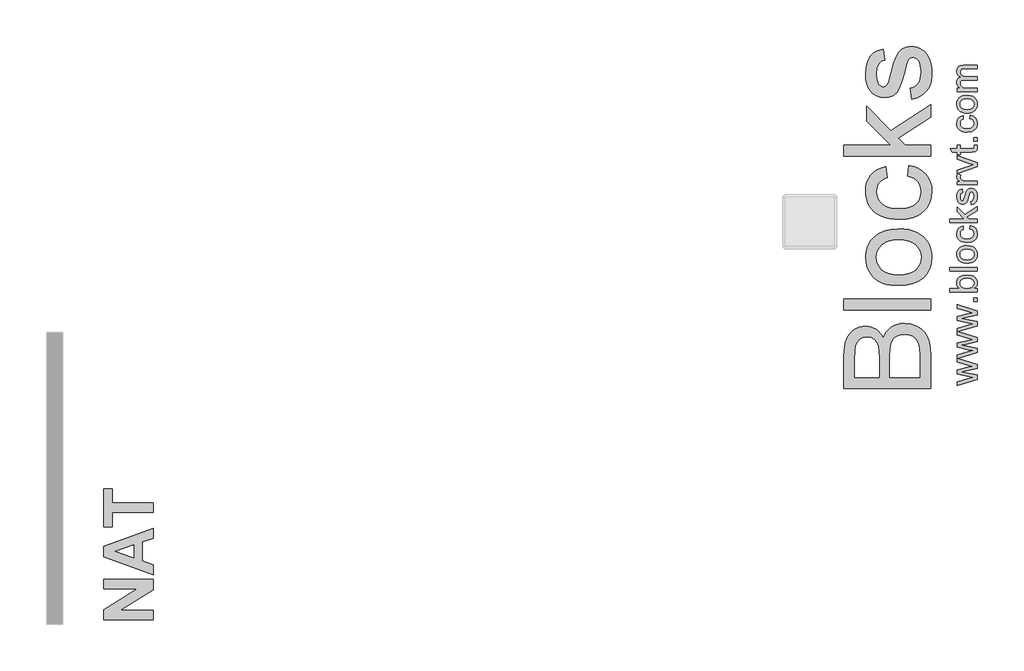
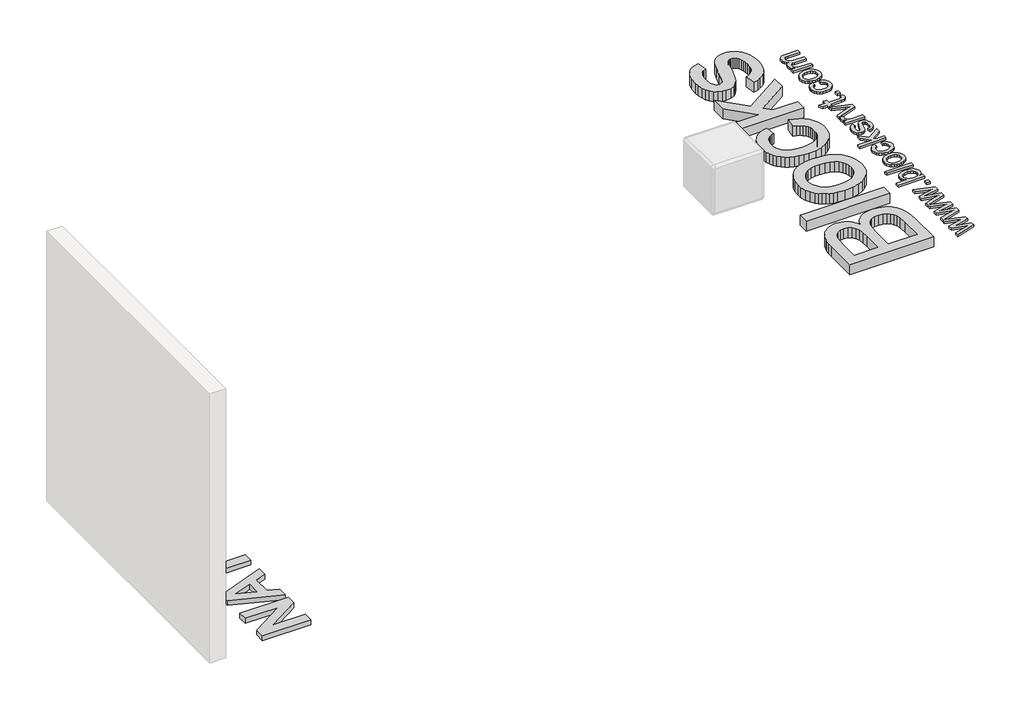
# One storey, part 9 of 9: 3 proxies.
"""IFC4 building model written with IfcOpenShell, lengths in millimetres."""

from ifc_helpers import new_model, si_unit, origin, origin_with_axes, place, context, project, spatial, polyline, outline, extrude, element, save

model = new_model("IFC4")

# Units and contexts
model_context = context("Model", 3, world=origin())
ifc_project = project(units=[si_unit("LENGTHUNIT", "METRE", prefix="MILLI")], contexts=[model_context])

# Site, building, storey
site = spatial("IfcSite", under=ifc_project)
building = spatial("IfcBuilding", under=site)
storey = spatial("IfcBuildingStorey", under=building, Name="PORTOBELLO - SHOWROOM", Elevation=0.0)

# Proxies
placement = place(None, origin())
element("IfcBuildingElementProxy", 1, Name="25mm Arial", ObjectType="25mm Arial", at=placement, inside=storey, context=model_context, shape_type="SweptSolid", body=[
    extrude(outline(polyline([(-5021.0330724, 23535.1740089), (-5199.0530549, 23480.7855901), (-5021.0330724, 23426.2196247), (-5021.0330724, 23388.3277792), (-5129.190379, 23364.1701948), (-5162.9128952, 23357.1804369), (-5021.0330724, 23326.0944083), (-5021.0330724, 23287.9573082), (-5199.0530549, 23233.5688893), (-5021.0330724, 23179.0029239), (-5021.0330724, 23141.1110784), (-5129.190379, 23116.9534941), (-5162.9128952, 23109.9637362), (-5021.0330724, 23078.8777076), (-5021.0330724, 23040.7406074), (-5205.4645793, 22984.3933485), (-5205.4645793, 23016.9509051), (-5097.8590958, 23048.8340113), (-5059.4154273, 23058.3376295), (-5096.4488814, 23066.1244651), (-5205.4645793, 23091.4470091), (-5205.4645793, 23128.7257179), (-5096.7554498, 23154.0482619), (-5063.2168745, 23160.9767062), (-5098.5948597, 23170.90952), (-5205.4645793, 23202.7926263), (-5205.4645793, 23231.6100492), (-5205.4645793, 23235.5341239), (-5205.4645793, 23264.1676058), (-5097.8590958, 23296.0507121), (-5059.4154273, 23305.5543303), (-5096.4488814, 23313.3411658), (-5205.4645793, 23338.6637098), (-5205.4645793, 23375.9424187), (-5096.7554498, 23401.2649627), (-5063.2168745, 23408.1934069), (-5098.5948597, 23418.1262208), (-5205.4645793, 23450.009327), (-5205.4645793, 23478.82675), (-5205.4645793, 23482.7508246), (-5205.4645793, 23511.3843066), (-5097.8590958, 23543.2674128), (-5059.4154273, 23552.771031), (-5096.4488814, 23560.5578666), (-5205.4645793, 23585.8804106), (-5205.4645793, 23623.1591194), (-5096.7554498, 23648.4816634), (-5063.2168745, 23655.4101077), (-5098.5948597, 23665.3429216), (-5205.4645793, 23697.2260278), (-5205.4645793, 23729.9675254), (-5021.0330724, 23673.4363255), (-5021.0330724, 23635.54448), (-5129.190379, 23611.3868956), (-5162.9128952, 23604.3971377), (-5021.0330724, 23573.3111091), (-5021.0330724, 23535.1740089)])), origin_with_axes(), (0.0, 0.0, 1.0), 20.0),
    extrude(outline(polyline([(-5021.0330724, 23759.398085), (-5052.4256693, 23759.398085), (-5052.4256693, 23790.7906819), (-5021.0330724, 23790.7906819), (-5021.0330724, 23759.398085)])), origin_with_axes(), (0.0, 0.0, 1.0), 20.0),
    extrude(outline(polyline([(-5021.0330724, 23881.0443981), (-5021.0330724, 23849.6518011), (-5272.1738478, 23849.6518011), (-5272.1738478, 23881.0443981), (-5179.0383894, 23881.0443981), (-5192.3166301, 23891.3680866), (-5201.8010878, 23903.0253473), (-5207.4917624, 23916.0161802), (-5209.388654, 23930.3405854), (-5207.6795355, 23946.5120648), (-5202.5521802, 23961.794496), (-5194.3284848, 23975.3141593), (-5183.330346, 23986.197335), (-5153.4399339, 24001.1885263), (-5116.0079408, 24006.6147858), (-5074.1000502, 24000.9969211), (-5057.1698142, 23993.9745903), (-5042.9220511, 23984.1433272), (-5031.6288403, 23972.3423626), (-5023.5622611, 23959.4109272), (-5018.7223136, 23945.3490212), (-5017.1089978, 23930.1566444), (-5019.1898303, 23915.3608904), (-5025.432328, 23902.243598), (-5035.8364906, 23890.8047672), (-5050.4023184, 23881.0443981), (-5021.0330724, 23881.0443981)]), holes=[polyline([(-5114.5364129, 23881.0443981), (-5088.3554775, 23883.1903764), (-5070.6358281, 23889.6283113), (-5054.0351531, 23906.0757022), (-5048.5015947, 23927.4588431), (-5052.5789535, 23945.5770314), (-5064.8110299, 23961.058732), (-5085.1211817, 23971.6813246), (-5113.4327669, 23975.2221888), (-5142.1582193, 23971.8269446), (-5162.2384449, 23961.6412118), (-5174.056654, 23946.6423563), (-5177.996057, 23928.8077438), (-5173.9186983, 23910.6895555), (-5161.6866219, 23895.2078549), (-5141.7443521, 23884.5852623), (-5114.5364129, 23881.0443981)])]), origin_with_axes(), (0.0, 0.0, 1.0), 20.0),
    extrude(outline(polyline([(-5021.0330724, 24041.9314573), (-5272.1738478, 24041.9314573), (-5272.1738478, 24073.3240542), (-5021.0330724, 24073.3240542), (-5021.0330724, 24041.9314573)])), origin_with_axes(), (0.0, 0.0, 1.0), 20.0),
    extrude(outline(polyline([(-5113.2488259, 24112.5648004), (-5137.1343308, 24114.2624225), (-5157.7165621, 24119.3552889), (-5174.9955195, 24127.8433995), (-5188.9712032, 24139.7267543), (-5204.2842913, 24164.8960142), (-5209.388654, 24195.0316809), (-5207.8347357, 24212.3508755), (-5203.1729811, 24228.010769), (-5195.40339, 24242.0113614), (-5184.5259624, 24254.3526527), (-5170.9085805, 24264.4253383), (-5154.919126, 24271.6201138), (-5136.5575992, 24275.9369791), (-5115.8239998, 24277.3759342), (-5084.1095062, 24274.8314171), (-5059.9672502, 24267.1978657), (-5041.887383, 24254.697542), (-5028.3600555, 24237.5527082), (-5019.9217622, 24217.1889069), (-5017.1089978, 24195.0316809), (-5018.6571679, 24177.4595675), (-5023.3016781, 24161.6540541), (-5031.0425284, 24147.6151407), (-5041.8797188, 24135.3428272), (-5055.6293084, 24125.3774405), (-5072.1073561, 24118.2593071), (-5091.3138619, 24113.988427), (-5113.2488259, 24112.5648004)]), holes=[polyline([(-5113.3101395, 24143.9573973), (-5084.8989196, 24147.590232), (-5064.6577457, 24158.4887361), (-5052.5406325, 24174.8901417), (-5048.5015947, 24195.0316809), (-5052.5636251, 24215.0812497), (-5064.7497162, 24231.4519985), (-5085.2591374, 24242.3505026), (-5114.2911582, 24245.9833373), (-5141.8746436, 24242.32751), (-5161.8399061, 24231.360028), (-5173.9570193, 24214.9662866), (-5177.996057, 24195.0316809), (-5173.9723477, 24174.8901417), (-5161.9012197, 24158.4887361), (-5141.7060311, 24147.590232), (-5113.3101395, 24143.9573973)])]), origin_with_axes(), (0.0, 0.0, 1.0), 20.0),
    extrude(outline(polyline([(-5087.7423409, 24430.4148442), (-5083.8182663, 24461.8074411), (-5055.8975557, 24453.0549153), (-5034.7979904, 24436.6075244), (-5021.531246, 24414.0134386), (-5017.1089978, 24386.8208278), (-5018.6514197, 24369.2142254), (-5023.2786854, 24353.4278725), (-5030.990795, 24339.461769), (-5041.7877483, 24327.315915), (-5055.466444, 24317.4846519), (-5071.8237804, 24310.4623211), (-5112.5743756, 24304.8444565), (-5140.5104146, 24307.2433537), (-5164.7216484, 24314.4400452), (-5184.2730436, 24326.5494942), (-5198.2295668, 24343.6866638), (-5206.5988822, 24364.1884209), (-5209.388654, 24386.3916321), (-5205.5565498, 24412.9174568), (-5194.0602375, 24434.124321), (-5175.5128536, 24449.3377743), (-5150.5275347, 24457.8833665), (-5146.6034601, 24426.4907696), (-5160.2994002, 24420.7962629), (-5170.117251, 24411.9287739), (-5176.0263555, 24400.3788121), (-5177.996057, 24386.6368868), (-5174.1179677, 24366.3497276), (-5162.4836996, 24350.2472261), (-5142.4647877, 24339.7395966), (-5113.4327669, 24336.2370534), (-5084.0098715, 24339.6629545), (-5063.9219817, 24349.9406578), (-5052.3566915, 24365.7519193), (-5048.5015947, 24385.7784954), (-5050.9081561, 24402.0342811), (-5058.1278403, 24415.3623392), (-5070.3445882, 24425.0575626), (-5087.7423409, 24430.4148442)])), origin_with_axes(), (0.0, 0.0, 1.0), 20.0),
    extrude(outline(polyline([(-5021.0330724, 24489.2759634), (-5272.1738478, 24489.2759634), (-5272.1738478, 24520.6685603), (-5137.2224692, 24520.6685603), (-5205.4645793, 24591.0566488), (-5205.4645793, 24634.4667242), (-5136.3640779, 24563.1589308), (-5021.0330724, 24638.3907988), (-5021.0330724, 24601.7252266), (-5114.5364129, 24540.6568154), (-5095.0999808, 24520.6685603), (-5021.0330724, 24520.6685603), (-5021.0330724, 24489.2759634)])), origin_with_axes(), (0.0, 0.0, 1.0), 20.0),
    extrude(outline(polyline([(-5075.970117, 24654.0870973), (-5079.8941917, 24685.4796942), (-5066.4664988, 24690.4307727), (-5056.5949986, 24700.011033), (-5050.5249457, 24714.2817887), (-5048.5015947, 24733.3043536), (-5050.3563331, 24752.0969921), (-5055.9205483, 24765.3100871), (-5063.9832954, 24773.1275795), (-5073.3336294, 24775.7334103), (-5081.3350628, 24773.1122511), (-5087.4357726, 24765.2487735), (-5096.3875678, 24732.9364716), (-5111.7466411, 24685.6636352), (-5119.4644988, 24673.6998061), (-5129.6808883, 24665.0315866), (-5141.7443521, 24659.7662756), (-5155.0034323, 24658.0111719), (-5178.3945959, 24663.6520291), (-5196.2675295, 24679.0417593), (-5205.5565498, 24698.9993575), (-5209.388654, 24726.0080273), (-5207.8481481, 24746.4408065), (-5203.2266305, 24764.2064412), (-5195.9762895, 24778.4925253), (-5186.5493134, 24788.4866528), (-5174.2482592, 24795.1085287), (-5158.375684, 24799.277858), (-5154.4516093, 24767.8852611), (-5164.3307738, 24763.9228654), (-5171.7727199, 24756.0823804), (-5176.4402228, 24744.287164), (-5177.996057, 24728.460574), (-5176.5092006, 24710.4343562), (-5172.0486314, 24698.4168777), (-5165.6106965, 24691.657046), (-5158.191743, 24689.4037688), (-5149.0560067, 24693.1439024), (-5142.1275625, 24704.8548126), (-5135.4443729, 24731.8941392), (-5120.6677795, 24777.9713591), (-5113.6013795, 24790.1421218), (-5103.9291487, 24799.3698285), (-5091.6204303, 24805.1869626), (-5076.6445674, 24807.1260073), (-5061.1628667, 24804.8497374), (-5046.6008711, 24798.0209279), (-5034.1005475, 24786.9001617), (-5024.8038629, 24771.7480221), (-5019.0327141, 24753.4458928), (-5017.1089978, 24732.8751579), (-5020.8184746, 24701.2219779), (-5031.9469049, 24678.1220543), (-5050.3716615, 24662.7016673), (-5075.970117, 24654.0870973)])), origin_with_axes(), (0.0, 0.0, 1.0), 20.0),
    extrude(outline(polyline([(-5021.0330724, 25005.53703), (-5205.4645793, 24940.5445442), (-5205.4645793, 24973.7152374), (-5094.9773535, 25013.0786109), (-5057.8212719, 25024.9121484), (-5092.8926888, 25036.5004312), (-5205.4645793, 25076.0477457), (-5205.4645793, 25109.2797526), (-5021.0330724, 25045.2069718), (-5021.0330724, 25005.53703)])), origin_with_axes(), (0.0, 0.0, 1.0), 20.0),
    extrude(outline(polyline([(-5021.0330724, 24842.4426788), (-5205.4645793, 24842.4426788), (-5205.4645793, 24869.9112011), (-5178.179998, 24869.9112011), (-5193.9989238, 24880.0586128), (-5203.318601, 24889.4089468), (-5209.388654, 24909.0293199), (-5206.9667642, 24924.6643047), (-5199.7010948, 24940.5445442), (-5171.5581221, 24930.0599073), (-5177.996057, 24907.9869876), (-5176.447887, 24898.6136609), (-5171.8033768, 24890.2366813), (-5154.6355503, 24878.92431), (-5117.9699782, 24873.8352757), (-5021.0330724, 24873.8352757), (-5021.0330724, 24842.4426788)])), origin_with_axes(), (0.0, 0.0, 1.0), 20.0),
    extrude(outline(polyline([(-5047.2140077, 25203.4575434), (-5020.1133674, 25207.381618), (-5017.1089978, 25183.898484), (-5018.4119132, 25168.8306506), (-5022.3206594, 25157.5949213), (-5035.9936069, 25144.4737968), (-5071.6168468, 25140.6723496), (-5174.0719824, 25140.6723496), (-5174.0719824, 25117.1279019), (-5205.4645793, 25117.1279019), (-5205.4645793, 25140.6723496), (-5250.2848691, 25140.6723496), (-5268.7402825, 25172.0649465), (-5205.4645793, 25172.0649465), (-5205.4645793, 25203.4575434), (-5174.0719824, 25203.4575434), (-5174.0719824, 25172.0649465), (-5072.5365518, 25172.0649465), (-5056.349744, 25173.7204155), (-5050.6169162, 25179.0853612), (-5048.5015947, 25189.7845959), (-5047.2140077, 25203.4575434)])), origin_with_axes(), (0.0, 0.0, 1.0), 20.0),
    extrude(outline(polyline([(-5021.0330724, 25242.6982895), (-5052.4256693, 25242.6982895), (-5052.4256693, 25274.0908865), (-5021.0330724, 25274.0908865), (-5021.0330724, 25242.6982895)])), origin_with_axes(), (0.0, 0.0, 1.0), 20.0),
    extrude(outline(polyline([(-5087.7423409, 25450.6742442), (-5083.8182663, 25482.0668411), (-5055.8975557, 25473.3143153), (-5034.7979904, 25456.8669244), (-5021.531246, 25434.2728385), (-5017.1089978, 25407.0802277), (-5018.6514197, 25389.4736254), (-5023.2786854, 25373.6872725), (-5030.990795, 25359.721169), (-5041.7877483, 25347.575315), (-5055.466444, 25337.7440519), (-5071.8237804, 25330.7217211), (-5112.5743756, 25325.1038565), (-5140.5104146, 25327.5027536), (-5164.7216484, 25334.6994452), (-5184.2730436, 25346.8088942), (-5198.2295668, 25363.9460638), (-5206.5988822, 25384.4478208), (-5209.388654, 25406.6510321), (-5205.5565498, 25433.1768568), (-5194.0602375, 25454.3837209), (-5175.5128536, 25469.5971743), (-5150.5275347, 25478.1427665), (-5146.6034601, 25446.7501695), (-5160.2994002, 25441.0556628), (-5170.117251, 25432.1881739), (-5176.0263555, 25420.6382121), (-5177.996057, 25406.8962867), (-5174.1179677, 25386.6091275), (-5162.4836996, 25370.506626), (-5142.4647877, 25359.9989965), (-5113.4327669, 25356.4964534), (-5084.0098715, 25359.9223545), (-5063.9219817, 25370.2000577), (-5052.3566915, 25386.0113193), (-5048.5015947, 25406.0378954), (-5050.9081561, 25422.2936811), (-5058.1278403, 25435.6217392), (-5070.3445882, 25445.3169626), (-5087.7423409, 25450.6742442)])), origin_with_axes(), (0.0, 0.0, 1.0), 20.0),
    extrude(outline(polyline([(-5113.2488259, 25501.6872142), (-5137.1343308, 25503.3848363), (-5157.7165621, 25508.4777026), (-5174.9955195, 25516.9658133), (-5188.9712032, 25528.8491681), (-5204.2842913, 25554.018428), (-5209.388654, 25584.1540947), (-5207.8347357, 25601.4732893), (-5203.1729811, 25617.1331828), (-5195.40339, 25631.1337752), (-5184.5259624, 25643.4750665), (-5170.9085805, 25653.5477521), (-5154.919126, 25660.7425276), (-5136.5575992, 25665.0593929), (-5115.8239998, 25666.498348), (-5084.1095062, 25663.9538309), (-5059.9672502, 25656.3202795), (-5041.887383, 25643.8199558), (-5028.3600555, 25626.675122), (-5019.9217622, 25606.3113207), (-5017.1089978, 25584.1540947), (-5018.6571679, 25566.5819813), (-5023.3016781, 25550.7764679), (-5031.0425284, 25536.7375545), (-5041.8797188, 25524.465241), (-5055.6293084, 25514.4998543), (-5072.1073561, 25507.3817209), (-5091.3138619, 25503.1108408), (-5113.2488259, 25501.6872142)]), holes=[polyline([(-5113.3101395, 25533.0798111), (-5084.8989196, 25536.7126458), (-5064.6577457, 25547.6111499), (-5052.5406325, 25564.0125555), (-5048.5015947, 25584.1540947), (-5052.5636251, 25604.2036635), (-5064.7497162, 25620.5744123), (-5085.2591374, 25631.4729164), (-5114.2911582, 25635.1057511), (-5141.8746436, 25631.4499237), (-5161.8399061, 25620.4824418), (-5173.9570193, 25604.0887003), (-5177.996057, 25584.1540947), (-5173.9723477, 25564.0125555), (-5161.9012197, 25547.6111499), (-5141.7060311, 25536.7126458), (-5113.3101395, 25533.0798111)])]), origin_with_axes(), (0.0, 0.0, 1.0), 20.0),
    extrude(outline(polyline([(-5021.0330724, 25701.8150195), (-5205.4645793, 25701.8150195), (-5205.4645793, 25733.2076164), (-5175.1143147, 25733.2076164), (-5189.0555095, 25742.649921), (-5199.9770062, 25754.7900268), (-5207.035742, 25769.2140667), (-5209.388654, 25785.5081734), (-5206.9897568, 25802.9672398), (-5199.7930652, 25816.962084), (-5188.2737603, 25827.416064), (-5172.9070228, 25834.2525378), (-5188.8677364, 25845.6952007), (-5200.2682462, 25858.7473473), (-5207.108552, 25873.4089777), (-5209.388654, 25889.6800917), (-5205.5948709, 25913.2781889), (-5194.2135217, 25930.729591), (-5174.9380379, 25941.513132), (-5147.4618514, 25945.1076457), (-5021.0330724, 25945.1076457), (-5021.0330724, 25913.7150487), (-5133.9728449, 25913.7150487), (-5160.1844371, 25910.8026496), (-5173.0909638, 25900.2566991), (-5177.996057, 25882.3224518), (-5174.8537317, 25865.3155738), (-5165.4267555, 25851.4510211), (-5149.0713352, 25842.2309786), (-5125.1436771, 25839.1576311), (-5021.0330724, 25839.1576311), (-5021.0330724, 25807.7650341), (-5137.4677239, 25807.7650341), (-5155.2180302, 25805.9486168), (-5167.8793022, 25800.4993647), (-5175.4668683, 25790.9114402), (-5177.996057, 25776.6790055), (-5176.3099312, 25764.584885), (-5171.2515538, 25753.4411262), (-5162.9435521, 25744.2440763), (-5151.5085534, 25737.9900824), (-5114.0459035, 25733.2076164), (-5021.0330724, 25733.2076164), (-5021.0330724, 25701.8150195)])), origin_with_axes(), (0.0, 0.0, 1.0), 20.0),
])
element("IfcBuildingElementProxy", 2, Name="450mm Arial", ObjectType="450mm Arial", at=placement, inside=storey, context=model_context, shape_type="SweptSolid", body=[
    extrude(outline(polyline([(-12630.352049, 20819.1171638), (-13089.468779, 20819.1171638), (-13089.468779, 20910.7810943), (-12780.4303848, 21103.3322824), (-13089.468779, 21103.3322824), (-13089.468779, 21190.7830881), (-12630.352049, 21190.7830881), (-12630.352049, 21096.2724517), (-12934.8357137, 20906.5679695), (-12630.352049, 20906.5679695), (-12630.352049, 20819.1171638)])), origin_with_axes(), (0.0, 0.0, 1.0), 50.0),
    extrude(outline(polyline([(-12630.352049, 21664.4749524), (-12630.352049, 21572.5832854), (-12732.377989, 21536.6009227), (-12732.377989, 21363.2934666), (-12630.352049, 21327.7665767), (-12630.352049, 21234.508491), (-13089.468779, 21401.8947988), (-13089.468779, 21495.2667528), (-12630.352049, 21664.4749524)]), holes=[polyline([(-12812.5412276, 21508.5893365), (-12980.1552718, 21449.4917217), (-12812.5412276, 21391.1911845), (-12812.5412276, 21508.5893365)])]), origin_with_axes(), (0.0, 0.0, 1.0), 50.0),
    extrude(outline(polyline([(-12630.352049, 21810.2262952), (-13009.3055404, 21810.2262952), (-13009.3055404, 21679.0500867), (-13089.468779, 21679.0500867), (-13089.468779, 22028.8533095), (-13009.3055404, 22028.8533095), (-13009.3055404, 21897.6771009), (-12630.352049, 21897.6771009), (-12630.352049, 21810.2262952)])), origin_with_axes(), (0.0, 0.0, 1.0), 50.0),
])
element("IfcBuildingElementProxy", 3, Name="80mm Arial", ObjectType="80mm Arial", at=placement, inside=storey, context=model_context, shape_type="SweptSolid", body=[
    extrude(outline(polyline([(-5450.4764951, 22957.1961247), (-6249.8651934, 22957.1961247), (-6249.8651934, 23262.2362945), (-6248.3953702, 23306.483464), (-6243.9859003, 23346.1320994), (-6236.636784, 23381.1822004), (-6226.348021, 23411.6337673), (-6213.0098322, 23438.2613541), (-6196.5124382, 23461.839515), (-6176.855839, 23482.3682501), (-6154.0400345, 23499.8475592), (-6129.3518826, 23513.8078309), (-6104.0782409, 23523.7794535), (-6078.2191094, 23529.7624271), (-6051.7744882, 23531.7567516), (-6027.3485868, 23530.0795674), (-6003.64235, 23525.0480147), (-5980.6557777, 23516.6620935), (-5958.38887, 23504.9218039), (-5937.5368958, 23489.7905527), (-5918.7951243, 23471.2317467), (-5902.1635555, 23449.2453861), (-5887.6421895, 23423.8314708), (-5874.78581, 23453.9902928), (-5858.0749561, 23480.4532106), (-5837.509628, 23503.2202242), (-5813.0898255, 23522.2913337), (-5785.5596087, 23537.3615964), (-5755.6630373, 23548.1260698), (-5723.4001115, 23554.5847538), (-5688.7708312, 23556.7376485), (-5633.0273261, 23550.8583554), (-5581.3334585, 23533.2204761), (-5537.372935, 23506.8978318), (-5504.829462, 23474.964244), (-5481.2634988, 23435.8584065), (-5464.2355047, 23388.0190133), (-5453.9162475, 23329.8847583), (-5450.4764951, 23259.8943354), (-5450.4764951, 22957.1961247)]), holes=[polyline([(-5925.1135347, 23057.119712), (-5925.1135347, 23239.5973568), (-5927.2603306, 23303.4157416), (-5933.700718, 23346.1564948), (-5948.5087301, 23383.4570722), (-5970.6841551, 23410.2676245), (-5999.8854574, 23426.4417794), (-6035.7711011, 23431.8331643), (-6070.6077424, 23426.8077105), (-6100.9556288, 23411.7313489), (-6124.643569, 23387.2871511), (-6139.5003719, 23354.1581883), (-6147.3312976, 23303.31816), (-6149.9416061, 23225.7407656), (-6149.9416061, 23057.119712), (-5925.1135347, 23057.119712)]), polyline([(-5550.4000824, 23057.119712), (-5550.4000824, 23262.0411312), (-5554.3033475, 23336.2031687), (-5562.963717, 23370.625088), (-5576.0640506, 23398.9481556), (-5594.8241186, 23421.9774199), (-5620.4636914, 23440.5179293), (-5651.8361849, 23452.7400282), (-5687.7950149, 23456.8140612), (-5729.5599518, 23452.0325614), (-5765.469991, 23437.688062), (-5780.7354169, 23426.6430415), (-5793.5491045, 23412.633979), (-5803.9110536, 23395.6608745), (-5811.8212644, 23375.7237281), (-5821.8477767, 23323.4443708), (-5825.1899474, 23252.2829684), (-5825.1899474, 23057.119712), (-5550.4000824, 23057.119712)])]), origin_with_axes(), (0.0, 0.0, 1.0), 100.0),
    extrude(outline(polyline([(-5450.4764951, 23681.6421326), (-6249.8651934, 23681.6421326), (-6249.8651934, 23781.5657199), (-5450.4764951, 23781.5657199), (-5450.4764951, 23681.6421326)])), origin_with_axes(), (0.0, 0.0, 1.0), 100.0),
    extrude(outline(polyline([(-5744.0020328, 23906.470204), (-5820.0303188, 23911.8737866), (-5854.1015542, 23918.628265), (-5885.5441845, 23928.0845346), (-5914.3582096, 23940.2425956), (-5940.5436297, 23955.1024479), (-5964.1004446, 23972.6640916), (-5985.0286545, 23992.9275266), (-6013.4615014, 24031.008757), (-6033.7706777, 24073.0420433), (-6045.9561836, 24119.0273856), (-6050.0180188, 24168.9647839), (-6045.0718501, 24224.092305), (-6030.2333437, 24273.9382204), (-6005.5024998, 24318.5025303), (-5970.8793184, 24357.7852345), (-5927.5347789, 24389.8468982), (-5876.6398609, 24412.7480866), (-5818.1945645, 24426.4887996), (-5752.1988895, 24431.0690373), (-5698.7119596, 24429.0442185), (-5651.2506951, 24422.9697621), (-5609.8150963, 24412.8456682), (-5574.4051629, 24398.6719367), (-5543.8194213, 24380.6254343), (-5516.8563977, 24358.8830278), (-5493.516092, 24333.4447171), (-5473.7985042, 24304.3105022), (-5458.1305541, 24272.6147696), (-5446.9391611, 24239.4919057), (-5440.2243253, 24204.9419104), (-5437.9860467, 24168.9647839), (-5442.9139189, 24113.0322144), (-5457.6975356, 24062.7227862), (-5482.3368967, 24018.0364993), (-5516.8320023, 23978.9733537), (-5560.5973625, 23947.2532257), (-5613.0474877, 23924.5959914), (-5674.1823778, 23911.0016508), (-5744.0020328, 23906.470204)]), holes=[polyline([(-5744.197196, 24006.3937913), (-5695.7296211, 24009.284647), (-5653.7634221, 24017.9572142), (-5618.2985991, 24032.4114929), (-5589.335152, 24052.647483), (-5566.8364879, 24077.2624488), (-5550.7660135, 24104.8536541), (-5541.1237289, 24135.4210992), (-5537.909634, 24168.9647839), (-5541.1420254, 24202.3377007), (-5550.8391997, 24232.7831687), (-5567.0011569, 24260.3011879), (-5589.6278969, 24284.8917582), (-5618.87799, 24305.1277484), (-5654.9100062, 24319.582027), (-5697.7239456, 24328.2545942), (-5747.3198081, 24331.14545), (-5794.2504724, 24328.2362977), (-5835.1188781, 24319.5088408), (-5869.9250251, 24304.9630794), (-5898.6689135, 24284.5990133), (-5921.1675776, 24259.9169602), (-5937.238052, 24232.4172376), (-5946.8803367, 24202.0998455), (-5950.0944316, 24168.9647839), (-5946.8925344, 24135.4210992), (-5937.2868429, 24104.8536541), (-5921.277357, 24077.2624488), (-5898.8640767, 24052.647483), (-5869.9860136, 24032.4114929), (-5834.5821792, 24017.9572142), (-5792.6525733, 24009.284647), (-5744.197196, 24006.3937913)])]), origin_with_axes(), (0.0, 0.0, 1.0), 100.0),
    extrude(outline(polyline([(-5662.8141181, 24918.1965253), (-5650.3236697, 25018.1201126), (-5603.1734467, 25007.2519588), (-5561.4512018, 24990.2605578), (-5525.1569349, 24967.1459096), (-5494.2906462, 24937.9080142), (-5469.6573839, 24903.7788398), (-5452.0621965, 24865.9903542), (-5441.5050841, 24824.5425576), (-5437.9860467, 24779.43545), (-5442.8956223, 24723.3931011), (-5457.6243494, 24673.1446615), (-5482.1722277, 24628.690131), (-5516.5392574, 24590.0295096), (-5560.0789601, 24558.7363012), (-5612.1448576, 24536.3840095), (-5672.7369499, 24522.9726345), (-5741.8552369, 24518.5021762), (-5787.7978873, 24520.4111168), (-5830.7764957, 24526.1379386), (-5870.7910621, 24535.6826416), (-5907.8415865, 24549.0452258), (-5941.1840091, 24566.317174), (-5970.0742699, 24587.5899689), (-5994.5123689, 24612.8636106), (-6014.4983062, 24642.1380991), (-6030.0381805, 24674.0899835), (-6041.1380907, 24707.395813), (-6047.7980368, 24742.0555875), (-6050.0180188, 24778.0693072), (-6046.968593, 24822.4018607), (-6037.8203153, 24862.501811), (-6022.5731859, 24898.3691582), (-6001.2272047, 24930.0039023), (-5974.2702799, 24956.8693444), (-5942.1903197, 24978.4287853), (-5904.9873239, 24994.6822253), (-5862.6612927, 25005.6296642), (-5850.1708443, 24905.7060769), (-5873.51115, 24897.9056455), (-5893.7654367, 24887.5802895), (-5910.9337044, 24874.7300088), (-5925.0159531, 24859.3548035), (-5935.9877874, 24841.8450001), (-5943.8248119, 24822.5909251), (-5948.5270267, 24801.5925785), (-5950.0944316, 24778.8499602), (-5947.0084126, 24744.8976525), (-5937.7503556, 24714.2753178), (-5922.3202606, 24686.9829561), (-5900.7181277, 24663.0205675), (-5872.4438509, 24643.5103407), (-5836.9973245, 24629.5744645), (-5794.3785483, 24621.2129387), (-5744.5875225, 24618.4257634), (-5694.046338, 24621.1519502), (-5650.9335549, 24629.3305104), (-5615.2491732, 24642.9614441), (-5586.993193, 24662.0447513), (-5565.5191359, 24685.5314294), (-5550.1805237, 24712.372476), (-5540.9773564, 24742.5678911), (-5537.909634, 24776.1176746), (-5539.8246734, 24803.1538845), (-5545.5697918, 24827.860333), (-5555.1449891, 24850.2370201), (-5568.5502652, 24870.2839459), (-5585.9319928, 24887.4400159), (-5607.4365441, 24901.1441358), (-5633.0639192, 24911.3963056), (-5662.8141181, 24918.1965253)])), origin_with_axes(), (0.0, 0.0, 1.0), 100.0),
    extrude(outline(polyline([(-5450.4764951, 25105.5532515), (-6249.8651934, 25105.5532515), (-6249.8651934, 25205.4768388), (-5820.310866, 25205.4768388), (-6037.5275704, 25429.5242572), (-6037.5275704, 25567.6998427), (-5817.5785804, 25340.7249755), (-5450.4764951, 25580.1902911), (-5450.4764951, 25463.4826638), (-5748.1004611, 25269.1000604), (-5686.2337089, 25205.4768388), (-5450.4764951, 25205.4768388), (-5450.4764951, 25105.5532515)])), origin_with_axes(), (0.0, 0.0, 1.0), 100.0),
    extrude(outline(polyline([(-5625.3427729, 25630.1520848), (-5637.8332213, 25730.0756721), (-5615.0479111, 25736.1135353), (-5595.0924681, 25745.835105), (-5577.9668924, 25759.2403812), (-5563.6711838, 25776.3293638), (-5552.4005058, 25797.1508438), (-5544.3500214, 25821.7536118), (-5539.5197308, 25850.1376679), (-5537.909634, 25882.3030121), (-5539.3855561, 25914.4317632), (-5543.8133225, 25942.1205502), (-5551.1929331, 25965.3693731), (-5561.524388, 25984.1782319), (-5573.8440686, 25998.6934991), (-5587.1883562, 26009.0615471), (-5601.557251, 26015.2823759), (-5616.9507528, 26017.3559855), (-5630.4414129, 26015.2701782), (-5642.4195578, 26009.0127563), (-5652.8851874, 25998.5837198), (-5661.8383018, 25983.9830687), (-5674.5239135, 25946.5605143), (-5690.3321372, 25881.1320326), (-5716.7035723, 25789.942001), (-5739.220533, 25730.6611618), (-5763.7867079, 25692.5799314), (-5779.0521338, 25677.4730756), (-5796.3057855, 25664.9887261), (-5834.7041562, 25648.2290814), (-5876.9082104, 25642.6425332), (-5915.6237214, 25647.1312881), (-5951.3629927, 25660.5975528), (-5982.7110908, 25681.8215569), (-6008.253082, 25709.5835302), (-6024.3296552, 25737.1747355), (-6037.8203153, 25773.1091701), (-6046.968593, 25814.6545483), (-6050.0180188, 25859.0785846), (-6045.114542, 25924.1167398), (-6030.4041116, 25980.6652933), (-6007.3260565, 26026.1383321), (-5993.1889181, 26043.751816), (-5977.3197058, 26057.9499429), (-5938.1650775, 26079.0275746), (-5887.6421895, 26092.298676), (-5875.1517411, 25992.3750887), (-5891.8442984, 25987.6118855), (-5906.5974208, 25979.7626633), (-5919.4111083, 25968.8274221), (-5930.285361, 25954.8061619), (-5938.9518294, 25937.6378941), (-5945.1421639, 25917.2616304), (-5950.0944316, 25866.8851148), (-5945.3617226, 25809.5071174), (-5939.4458364, 25787.9903684), (-5931.1635957, 25771.2551192), (-5910.6714538, 25749.7383702), (-5899.2544033, 25744.3591829), (-5887.0566997, 25742.5661205), (-5871.6875933, 25745.5423601), (-5857.9773745, 25754.4710791), (-5845.7308802, 25769.7426039), (-5835.9239265, 25791.7472611), (-5814.6511316, 25877.8142572), (-5788.548046, 25966.1012353), (-5767.6167868, 26024.4794444), (-5745.1242215, 26063.2193508), (-5714.3372178, 26092.5914209), (-5695.8089061, 26103.3924874), (-5675.1581941, 26111.1075349), (-5652.3850816, 26115.7365633), (-5627.4895687, 26117.2795728), (-5602.4842764, 26115.4682139), (-5578.2108464, 26110.0341369), (-5554.6692786, 26100.9773421), (-5531.859573, 26088.2978293), (-5510.6904586, 26072.2029595), (-5492.0706641, 26052.9000936), (-5476.0001897, 26030.3892318), (-5462.4790354, 26004.6703739), (-5451.7633528, 25976.4448879), (-5444.1092938, 25946.4141418), (-5439.5168585, 25914.5781356), (-5437.9860467, 25880.9368693), (-5440.9378909, 25827.1571944), (-5449.7934237, 25780.1838382), (-5464.552645, 25740.0168004), (-5485.2155547, 25706.6560813), (-5511.6845714, 25679.4064116), (-5543.8621133, 25657.5725223), (-5581.7481804, 25641.1544134), (-5625.3427729, 25630.1520848)])), origin_with_axes(), (0.0, 0.0, 1.0), 100.0),
])

save(model, "model.ifc")
